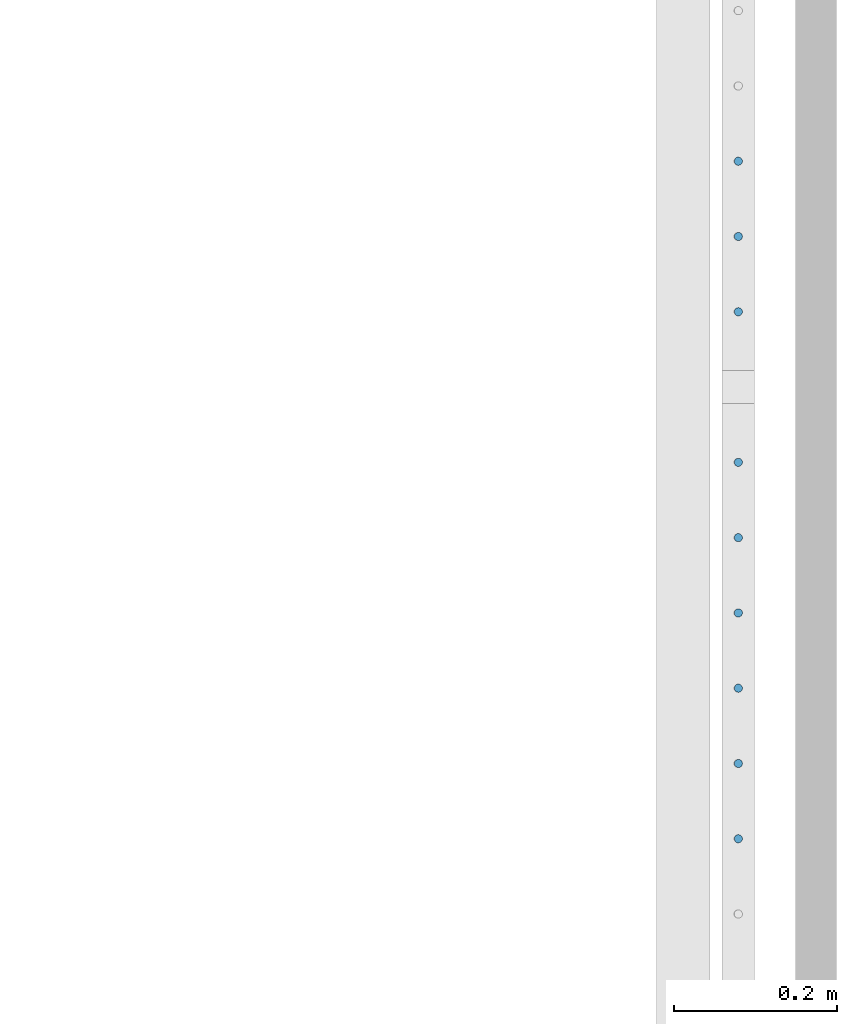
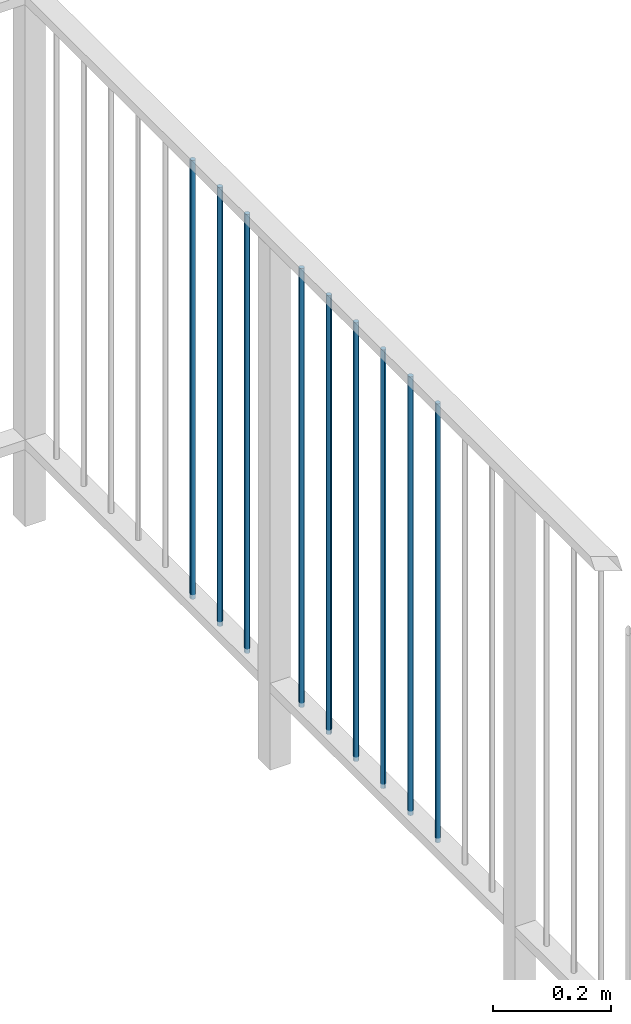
# One storey, part 40 of 135: 9 members, 1 element without a shape of its own.
"""IFC2X3 building model written with IfcOpenShell, lengths in millimetres."""

from ifc_helpers import new_model, entity, si_unit, converted_unit, derived_unit, money_unit, direction, frame, origin_with_axes, place, context, subcontext, project, spatial, faceted_brep, source, transform, mapped, material, type_object, type_shapes, element, aggregate, save


model = new_model("IFC2X3")

# Units and contexts
model_context = context("Model", 3, precision=0.01, world=origin_with_axes(), true_north=direction((0.0, 1.0)))
body_context = subcontext(model_context, "Body", "Model", "MODEL_VIEW")
ifc_project = project(units=[si_unit("LENGTHUNIT", "METRE", prefix="MILLI"), si_unit("AREAUNIT", "SQUARE_METRE"), si_unit("VOLUMEUNIT", "CUBIC_METRE"), converted_unit("PLANEANGLEUNIT", "DEGREE", entity("IfcPlaneAngleMeasure", 0.0174532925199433), si_unit("PLANEANGLEUNIT", "RADIAN"), dimensions=[0, 0, 0, 0, 0, 0, 0]), money_unit("EUR"), converted_unit("TIMEUNIT", "Year", entity("IfcTimeMeasure", 31557600.0), si_unit("TIMEUNIT", "SECOND"), dimensions=[0, 0, 1, 0, 0, 0, 0]), si_unit("MASSUNIT", "GRAM", prefix="KILO"), si_unit("THERMODYNAMICTEMPERATUREUNIT", "DEGREE_CELSIUS"), si_unit("LUMINOUSINTENSITYUNIT", "LUMEN"), si_unit("ENERGYUNIT", "JOULE", prefix="MEGA"), derived_unit("THERMALCONDUCTANCEUNIT", [(si_unit("POWERUNIT", "WATT"), 1), (si_unit("LENGTHUNIT", "METRE"), -1), (si_unit("THERMODYNAMICTEMPERATUREUNIT", "KELVIN"), -1)]), derived_unit("SPECIFICHEATCAPACITYUNIT", [(si_unit("ENERGYUNIT", "JOULE"), 1), (si_unit("MASSUNIT", "GRAM", prefix="KILO"), -1), (si_unit("THERMODYNAMICTEMPERATUREUNIT", "KELVIN"), -1)]), derived_unit("MASSDENSITYUNIT", [(si_unit("MASSUNIT", "GRAM", prefix="KILO"), 1), (si_unit("VOLUMEUNIT", "CUBIC_METRE"), -1)])], contexts=[model_context])

# Site, building, storey
site_placement = place(None, origin_with_axes())
site = spatial("IfcSite", under=ifc_project, at=site_placement, Name="Site", CompositionType="ELEMENT")
building_placement = place(site_placement, origin_with_axes())
building = spatial("IfcBuilding", under=site, at=building_placement, Name="Naam gebouw", CompositionType="ELEMENT")
storey_placement = place(building_placement, origin_with_axes())
storey = spatial("IfcBuildingStorey", under=building, at=storey_placement, Name="Begane grond N", CompositionType="ELEMENT", Elevation=0.0)

# Railing, members
railing_type = type_object("IfcRailingType", Name="Railing Type", PredefinedType="NOTDEFINED")
railing_placement = place(storey_placement, frame((56236.62159597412, 21185.9124251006, 4176.0), z_axis=(0.0, 0.0, 1.0), x_axis=(1.0, 0.0, 0.0)))
railing = element("IfcRailing", 1, at=railing_placement, inside=storey, type_object=railing_type, Name="_Reling-x", PredefinedType="NOTDEFINED")
ifc_material = material(Name="Metaal - Staal C")
member_type = type_object("IfcMemberType", Name="IfcMember", PredefinedType="MEMBER")
shared_shape = source(origin_with_axes(), body_context, "Body", "Brep", [
    faceted_brep([(0.0, -5.0, 0.0), (0.8682408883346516, -4.92403876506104, 0.0), (0.868240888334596, -4.92403876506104, 907.5000000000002), (0.0, -5.0, 907.5000000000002), (-0.868240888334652, -4.92403876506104, 0.0), (-1.710100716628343, -4.698463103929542, 0.0), (-2.500000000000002, -4.330127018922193, 0.0), (-3.213938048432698, -3.830222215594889, 0.0), (-3.830222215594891, -3.213938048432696, 0.0), (-4.330127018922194, -2.5, 0.0), (-4.698463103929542, -1.710100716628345, 0.0), (-4.924038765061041, -0.86824088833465, 0.0), (-5.0, 0.0, 0.0), (-4.92403876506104, 0.8682408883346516, 0.0), (-4.698463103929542, 1.710100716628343, 0.0), (-4.330127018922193, 2.500000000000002, 0.0), (-3.83022221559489, 3.213938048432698, 0.0), (-3.213938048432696, 3.83022221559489, 0.0), (-2.5, 4.330127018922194, 0.0), (-1.710100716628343, 4.698463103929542, 0.0), (-0.8682408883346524, 4.92403876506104, 0.0), (0.0, 5.0, 0.0), (0.8682408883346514, 4.92403876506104, 0.0), (1.710100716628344, 4.698463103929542, 0.0), (2.5, 4.330127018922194, 0.0), (3.213938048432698, 3.83022221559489, 0.0), (3.83022221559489, 3.213938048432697, 0.0), (4.330127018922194, 2.499999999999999, 0.0), (4.698463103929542, 1.710100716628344, 0.0), (4.92403876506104, 0.8682408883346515, 0.0), (5.0, 0.0, 0.0), (4.92403876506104, -0.8682408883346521, 0.0), (4.698463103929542, -1.710100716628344, 0.0), (4.330127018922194, -2.5, 0.0), (3.83022221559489, -3.213938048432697, 0.0), (3.213938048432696, -3.83022221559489, 0.0), (2.5, -4.330127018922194, 0.0), (1.710100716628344, -4.698463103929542, 0.0), (1.710100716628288, -4.698463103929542, 907.5000000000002), (2.499999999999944, -4.330127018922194, 907.5000000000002), (3.213938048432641, -3.83022221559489, 907.5000000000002), (3.830222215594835, -3.213938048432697, 907.5000000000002), (4.330127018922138, -2.5, 907.5000000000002), (4.698463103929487, -1.710100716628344, 907.5000000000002), (4.924038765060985, -0.8682408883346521, 907.5000000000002), (4.999999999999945, 0.0, 907.5000000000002), (4.924038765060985, 0.8682408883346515, 907.5000000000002), (4.698463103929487, 1.710100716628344, 907.5000000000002), (4.330127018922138, 2.499999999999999, 907.5000000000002), (3.830222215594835, 3.213938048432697, 907.5000000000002), (3.213938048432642, 3.83022221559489, 907.5000000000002), (2.499999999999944, 4.330127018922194, 907.5000000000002), (1.710100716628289, 4.698463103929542, 907.5000000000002), (0.8682408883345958, 4.92403876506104, 907.5000000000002), (0.0, 5.0, 907.5000000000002), (-0.868240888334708, 4.92403876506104, 907.5000000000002), (-1.710100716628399, 4.698463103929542, 907.5000000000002), (-2.500000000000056, 4.330127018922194, 907.5000000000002), (-3.213938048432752, 3.83022221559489, 907.5000000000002), (-3.830222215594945, 3.213938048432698, 907.5000000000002), (-4.330127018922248, 2.500000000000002, 907.5000000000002), (-4.698463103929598, 1.710100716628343, 907.5000000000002), (-4.924038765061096, 0.8682408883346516, 907.5000000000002), (-5.000000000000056, 0.0, 907.5000000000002), (-4.924038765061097, -0.86824088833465, 907.5000000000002), (-4.698463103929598, -1.710100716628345, 907.5000000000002), (-4.330127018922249, -2.5, 907.5000000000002), (-3.830222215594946, -3.213938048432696, 907.5000000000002), (-3.213938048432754, -3.830222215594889, 907.5000000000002), (-2.500000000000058, -4.330127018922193, 907.5000000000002), (-1.710100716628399, -4.698463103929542, 907.5000000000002), (-0.8682408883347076, -4.92403876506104, 907.5000000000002)], [[[0, 1, 2, 3]], [[0, 4, 5, 6, 7, 8, 9, 10, 11, 12, 13, 14, 15, 16, 17, 18, 19, 20, 21, 22, 23, 24, 25, 26, 27, 28, 29, 30, 31, 32, 33, 34, 35, 36, 37, 1]], [[1, 37, 38, 2]], [[3, 2, 38, 39, 40, 41, 42, 43, 44, 45, 46, 47, 48, 49, 50, 51, 52, 53, 54, 55, 56, 57, 58, 59, 60, 61, 62, 63, 64, 65, 66, 67, 68, 69, 70, 71]], [[4, 0, 3, 71]], [[5, 4, 71, 70]], [[6, 5, 70, 69]], [[7, 6, 69, 68]], [[8, 7, 68, 67]], [[9, 8, 67, 66]], [[10, 9, 66, 65]], [[11, 10, 65, 64]], [[12, 11, 64, 63]], [[13, 12, 63, 62]], [[14, 13, 62, 61]], [[15, 14, 61, 60]], [[16, 15, 60, 59]], [[17, 16, 59, 58]], [[18, 17, 58, 57]], [[19, 18, 57, 56]], [[20, 19, 56, 55]], [[21, 20, 55, 54]], [[22, 21, 54, 53]], [[23, 22, 53, 52]], [[24, 23, 52, 51]], [[25, 24, 51, 50]], [[26, 25, 50, 49]], [[27, 26, 49, 48]], [[28, 27, 48, 47]], [[29, 28, 47, 46]], [[30, 29, 46, 45]], [[31, 30, 45, 44]], [[32, 31, 44, 43]], [[33, 32, 43, 42]], [[34, 33, 42, 41]], [[35, 34, 41, 40]], [[36, 35, 40, 39]], [[37, 36, 39, 38]]]),
])
type_shapes(member_type, [shared_shape])
member_1_placement = place(railing_placement, frame((3908.378404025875, 1081.666666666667, 1806.673611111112), z_axis=(0.0, 0.0, 1.0), x_axis=(1.0, 0.0, 0.0)))
member_1 = element("IfcMember", 2, at=member_1_placement, type_object=member_type, material=ifc_material, Name="_Spijlen-x", ObjectType="MEMBER", context=body_context, shape_type="MappedRepresentation", body=[
    mapped(shared_shape, transform((0.0, 0.0, 0.0))),
])
member_2_placement = place(railing_placement, frame((3908.378404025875, 1173.888888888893, 1806.673611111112), z_axis=(0.0, 0.0, 1.0), x_axis=(1.0, 0.0, 0.0)))
member_2 = element("IfcMember", 3, at=member_2_placement, type_object=member_type, material=ifc_material, Name="_Spijlen-x", ObjectType="MEMBER", context=body_context, shape_type="MappedRepresentation", body=[
    mapped(shared_shape, transform((0.0, 0.0, 0.0))),
])
member_3_placement = place(railing_placement, frame((3908.378404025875, 1266.111111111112, 1806.673611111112), z_axis=(0.0, 0.0, 1.0), x_axis=(1.0, 0.0, 0.0)))
member_3 = element("IfcMember", 4, at=member_3_placement, type_object=member_type, material=ifc_material, Name="_Spijlen-x", ObjectType="MEMBER", context=body_context, shape_type="MappedRepresentation", body=[
    mapped(shared_shape, transform((0.0, 0.0, 0.0))),
])
member_4_placement = place(railing_placement, frame((3908.378404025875, 1358.333333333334, 1806.673611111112), z_axis=(0.0, 0.0, 1.0), x_axis=(1.0, 0.0, 0.0)))
member_4 = element("IfcMember", 5, at=member_4_placement, type_object=member_type, material=ifc_material, Name="_Spijlen-x", ObjectType="MEMBER", context=body_context, shape_type="MappedRepresentation", body=[
    mapped(shared_shape, transform((0.0, 0.0, 0.0))),
])
member_5_placement = place(railing_placement, frame((3908.378404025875, 1450.555555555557, 1806.673611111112), z_axis=(0.0, 0.0, 1.0), x_axis=(1.0, 0.0, 0.0)))
member_5 = element("IfcMember", 6, at=member_5_placement, type_object=member_type, material=ifc_material, Name="_Spijlen-x", ObjectType="MEMBER", context=body_context, shape_type="MappedRepresentation", body=[
    mapped(shared_shape, transform((0.0, 0.0, 0.0))),
])
member_6_placement = place(railing_placement, frame((3908.378404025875, 1542.777777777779, 1806.673611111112), z_axis=(0.0, 0.0, 1.0), x_axis=(1.0, 0.0, 0.0)))
member_6 = element("IfcMember", 7, at=member_6_placement, type_object=member_type, material=ifc_material, Name="_Spijlen-x", ObjectType="MEMBER", context=body_context, shape_type="MappedRepresentation", body=[
    mapped(shared_shape, transform((0.0, 0.0, 0.0))),
])
member_7_placement = place(railing_placement, frame((3908.378404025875, 1727.222222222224, 1806.673611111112), z_axis=(0.0, 0.0, 1.0), x_axis=(1.0, 0.0, 0.0)))
member_7 = element("IfcMember", 8, at=member_7_placement, type_object=member_type, material=ifc_material, Name="_Spijlen-x", ObjectType="MEMBER", context=body_context, shape_type="MappedRepresentation", body=[
    mapped(shared_shape, transform((0.0, 0.0, 0.0))),
])
member_8_placement = place(railing_placement, frame((3908.378404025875, 1819.444444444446, 1806.673611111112), z_axis=(0.0, 0.0, 1.0), x_axis=(1.0, 0.0, 0.0)))
member_8 = element("IfcMember", 9, at=member_8_placement, type_object=member_type, material=ifc_material, Name="_Spijlen-x", ObjectType="MEMBER", context=body_context, shape_type="MappedRepresentation", body=[
    mapped(shared_shape, transform((0.0, 0.0, 0.0))),
])
member_9_placement = place(railing_placement, frame((3908.378404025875, 1911.666666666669, 1806.673611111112), z_axis=(0.0, 0.0, 1.0), x_axis=(1.0, 0.0, 0.0)))
member_9 = element("IfcMember", 10, at=member_9_placement, type_object=member_type, material=ifc_material, Name="_Spijlen-x", ObjectType="MEMBER", context=body_context, shape_type="MappedRepresentation", body=[
    mapped(shared_shape, transform((0.0, 0.0, 0.0))),
])
aggregate(railing, [member_1, member_2, member_3, member_4, member_5, member_6, member_7, member_8, member_9])

save(model, "model.ifc")
